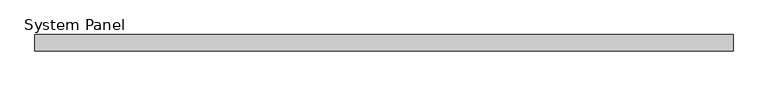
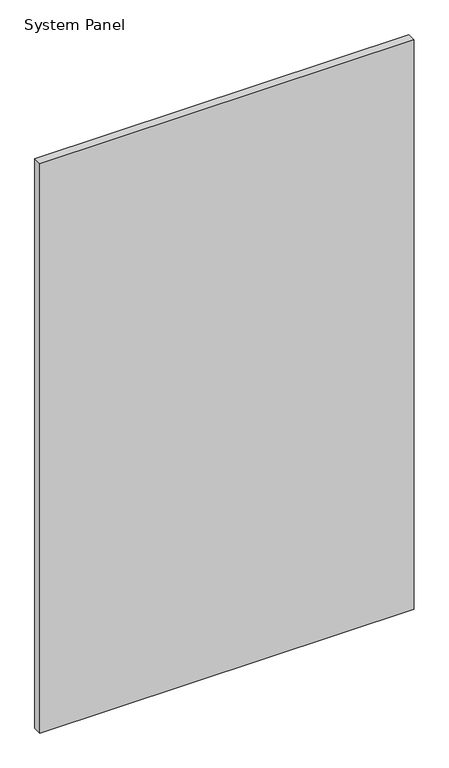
"""IFC4 building model written with IfcOpenShell, lengths in millimetres: plate geometry, System Panel : Panel_Glazed_Generic Showcase_30mm."""

import ifcopenshell
import ifcopenshell.guid

model = None  # the IFC model being written
_history = None  # IfcOwnerHistory: only IFC2X3 demands one
_inside = {}  # id of a spatial element -> (the spatial element, [elements in it])
_under = {}  # id of a project, library or spatial element -> (it, [spatial elements below it])
_declared = {}  # id of a project -> (the project, [libraries it declares])
_typed = {}  # id of a type object -> (the type object, [elements of that type])
_made_of = {}  # id of a material, layer set ... -> (it, [elements and type objects made of it])


def new_model(schema):
    """Start an empty IFC model of exactly this schema.

    Asked for "IFC4X3", IfcOpenShell would pick the latest addendum, in which some entities
    have other attributes; the version numbers below select the first issue.
    IFC2X3 requires an IfcOwnerHistory on every rooted entity: one is made here for all.
    """
    global model, _history
    if schema == "IFC4X3":
        model = ifcopenshell.file(schema_version=(4, 3, 0, 0))
    else:
        model = ifcopenshell.file(schema=schema)
    _inside.clear()
    _under.clear()
    _declared.clear()
    _typed.clear()
    _made_of.clear()
    _history = None
    if model.schema == "IFC2X3":
        org = make("IfcOrganization", Name="unknown")
        user = make(
            "IfcPersonAndOrganization",
            ThePerson=make("IfcPerson", FamilyName="unknown"),
            TheOrganization=org,
        )
        app = make(
            "IfcApplication",
            ApplicationDeveloper=org,
            Version="unknown",
            ApplicationFullName="unknown",
            ApplicationIdentifier="unknown",
        )
        _history = make(
            "IfcOwnerHistory",
            OwningUser=user,
            OwningApplication=app,
            ChangeAction="ADDED",
            CreationDate=0,
        )
    return model


def make(cls, **values):
    """One entity of the class cls with the attributes given. An attribute that is None is left unset."""
    return model.create_entity(
        cls, **{name: value for name, value in values.items() if value is not None}
    )


def rooted(cls, **values):
    """An entity with a GlobalId (a new one), such as an element, a storey or a relation."""
    return make(cls, GlobalId=ifcopenshell.guid.new(), OwnerHistory=_history, **values)


def si_unit(unit_type, name, prefix=None):
    """IfcSIUnit, for example si_unit("LENGTHUNIT", "METRE", prefix="MILLI")."""
    return make("IfcSIUnit", UnitType=unit_type, Prefix=prefix, Name=name)


def assignment(units):
    """IfcUnitAssignment: the units of a project."""
    return None if units is None else make("IfcUnitAssignment", Units=units)


def point(xyz):
    """IfcCartesianPoint."""
    return None if xyz is None else make("IfcCartesianPoint", Coordinates=xyz)


def direction(xyz):
    """IfcDirection."""
    return None if xyz is None else make("IfcDirection", DirectionRatios=xyz)


def frame(location, z_axis=None, x_axis=None):
    """IfcAxis2Placement3D, a coordinate frame: its origin and axes. An axis left out is left unset."""
    return make(
        "IfcAxis2Placement3D",
        Location=point(location),
        Axis=direction(z_axis),
        RefDirection=direction(x_axis),
    )


def origin():
    """The frame at (0, 0, 0) with its axes left unset."""
    return frame((0.0, 0.0, 0.0))


def origin_with_axes():
    """The frame at (0, 0, 0) with the z axis (0, 0, 1) and the x axis (1, 0, 0) written out."""
    return frame((0.0, 0.0, 0.0), z_axis=(0.0, 0.0, 1.0), x_axis=(1.0, 0.0, 0.0))


def place(relative_to, where):
    """IfcLocalPlacement: puts the frame where relative to a parent placement (None: the world)."""
    return make(
        "IfcLocalPlacement", PlacementRelTo=relative_to, RelativePlacement=where
    )


def context(
    kind, dimensions, precision=None, world=None, true_north=None, identifier=None
):
    """IfcGeometricRepresentationContext, for example the 3D "Model" context."""
    return make(
        "IfcGeometricRepresentationContext",
        ContextIdentifier=identifier,
        ContextType=kind,
        CoordinateSpaceDimension=dimensions,
        Precision=precision,
        WorldCoordinateSystem=world,
        TrueNorth=true_north,
    )


def project(units=None, contexts=None):
    """IfcProject with its units and contexts."""
    return rooted(
        "IfcProject",
        Name="project",
        RepresentationContexts=contexts,
        UnitsInContext=assignment(units),
    )


def spatial(cls, under=None, at=None, **own):
    """A site, building, storey or space (cls), placed at a placement, below another one or the project."""
    s = rooted(cls, ObjectPlacement=at, **own)
    if under is not None:
        _under.setdefault(under.id(), (under, []))[1].append(s)
    return s


def polyline(points):
    """IfcPolyline through the points."""
    return make("IfcPolyline", Points=[point(p) for p in points])


def outline(outer, holes=None, kind="AREA"):
    """IfcArbitraryClosedProfileDef: a profile drawn as a closed curve; with holes, ...WithVoids."""
    if holes is None:
        return make("IfcArbitraryClosedProfileDef", ProfileType=kind, OuterCurve=outer)
    return make(
        "IfcArbitraryProfileDefWithVoids",
        ProfileType=kind,
        OuterCurve=outer,
        InnerCurves=holes,
    )


def extrude(swept, where, along, depth):
    """IfcExtrudedAreaSolid: the profile swept, set in the frame where, extruded along a direction by depth."""
    return make(
        "IfcExtrudedAreaSolid",
        SweptArea=swept,
        Position=where,
        ExtrudedDirection=direction(along),
        Depth=depth,
    )


def shape(context_of_items, identifier, shape_type, items):
    """IfcShapeRepresentation: the items that make up one representation, for example the "Body"."""
    return make(
        "IfcShapeRepresentation",
        ContextOfItems=context_of_items,
        RepresentationIdentifier=identifier,
        RepresentationType=shape_type,
        Items=items,
    )


def source(mapping_origin, context_of_items, identifier, shape_type, items):
    """IfcRepresentationMap: a shape defined once, which mapped items show again and again."""
    return make(
        "IfcRepresentationMap",
        MappingOrigin=mapping_origin,
        MappedRepresentation=shape(context_of_items, identifier, shape_type, items),
    )


def transform(
    local_origin,
    x_axis=None,
    y_axis=None,
    z_axis=None,
    scale=None,
    scale2=None,
    scale3=None,
    uniform=True,
):
    """IfcCartesianTransformationOperator3D, or its non-uniform kind. x_axis, y_axis, z_axis: its Axis1, 2, 3."""
    if uniform:
        return make(
            "IfcCartesianTransformationOperator3D",
            Axis1=direction(x_axis),
            Axis2=direction(y_axis),
            LocalOrigin=point(local_origin),
            Scale=scale,
            Axis3=direction(z_axis),
        )
    return make(
        "IfcCartesianTransformationOperator3DnonUniform",
        Axis1=direction(x_axis),
        Axis2=direction(y_axis),
        LocalOrigin=point(local_origin),
        Scale=scale,
        Axis3=direction(z_axis),
        Scale2=scale2,
        Scale3=scale3,
    )


def mapped(mapping_source, mapping_target):
    """IfcMappedItem: shows the shape of a source again, moved by a transform."""
    return make(
        "IfcMappedItem", MappingSource=mapping_source, MappingTarget=mapping_target
    )


def made_of(thing, what):
    """Note that an element or type object is made of a material, layer set ...; save() writes the relation."""
    if what is not None:
        _made_of.setdefault(what.id(), (what, []))[1].append(thing)
    return thing


def element(
    cls,
    number,
    at=None,
    inside=None,
    cuts=None,
    type_object=None,
    material=None,
    context=None,
    identifier="Body",
    shape_type=None,
    held_by="IfcProductDefinitionShape",
    body=None,
    shapes=None,
    **own,
):
    """One element of the class cls, such as IfcWall. Its Tag is "e" and its number.

    at: its placement. inside: the storey or other place that contains it. cuts: it is an
    opening in that element (IfcRelVoidsElement). A single representation is given by context,
    identifier, shape_type and body (its items); several are given by shapes. held_by: the class
    of the entity that holds the representations. save() writes the other relations.
    """
    e = rooted(cls, Tag="e%d" % number, ObjectPlacement=at, **own)
    if body is not None:
        shapes = [shape(context, identifier, shape_type, body)]
    if shapes is not None:
        e.Representation = make(held_by, Representations=shapes)
    if inside is not None:
        _inside.setdefault(inside.id(), (inside, []))[1].append(e)
    if cuts is not None:
        rooted(
            "IfcRelVoidsElement", RelatingBuildingElement=cuts, RelatedOpeningElement=e
        )
    if type_object is not None:
        _typed.setdefault(type_object.id(), (type_object, []))[1].append(e)
    return made_of(e, material)


def aggregate(whole, parts):
    """IfcRelAggregates: a whole, such as a stair, and the parts it consists of."""
    return rooted("IfcRelAggregates", RelatingObject=whole, RelatedObjects=parts)


def save(model, path):
    """Write the relations noted so far, then the file.

    IfcRelAggregates (storeys below a building ...), IfcRelContainedInSpatialStructure (elements
    in a storey), IfcRelDefinesByType, IfcRelAssociatesMaterial and IfcRelDeclares: one each for
    every whole, place, type object, material and project.
    """
    for whole, parts in _under.values():
        aggregate(whole, parts)
    for where, things in _inside.values():
        rooted(
            "IfcRelContainedInSpatialStructure",
            RelatedElements=things,
            RelatingStructure=where,
        )
    for kind, things in _typed.values():
        rooted("IfcRelDefinesByType", RelatedObjects=things, RelatingType=kind)
    for what, things in _made_of.values():
        rooted("IfcRelAssociatesMaterial", RelatedObjects=things, RelatingMaterial=what)
    for by, libraries in _declared.values():
        rooted("IfcRelDeclares", RelatingContext=by, RelatedDefinitions=libraries)
    model.write(path)


def system_panel_1ba0b192(model_context):
    return source(origin(), model_context, "Body", "SweptSolid", [
        extrude(outline(polyline([(637.5, -30.0), (-637.5, -30.0), (-637.5, 0.0), (637.5, 0.0), (637.5, -30.0)])), origin_with_axes(), (0.0, 0.0, 1.0), 2050.0),
    ])


if __name__ == "__main__":
    model = new_model("IFC4")
    model_context = context("Model", 3, world=origin())
    ifc_project = project(units=[si_unit("LENGTHUNIT", "METRE", prefix="MILLI")], contexts=[model_context])
    site = spatial("IfcSite", under=ifc_project)
    building = spatial("IfcBuilding", under=site)
    placement = place(None, origin())
    system_panel_shape = system_panel_1ba0b192(model_context)
    element("IfcPlate", 1, ObjectType="System Panel : Panel_Glazed_Generic Showcase_30mm", at=placement, inside=building, context=model_context, shape_type="MappedRepresentation", body=[
        mapped(system_panel_shape, transform((0.0, 0.0, 0.0), x_axis=(1.0, 0.0, 0.0), y_axis=(0.0, 1.0, 0.0), z_axis=(0.0, 0.0, 1.0))),
    ])
    save(model, "model.ifc")
